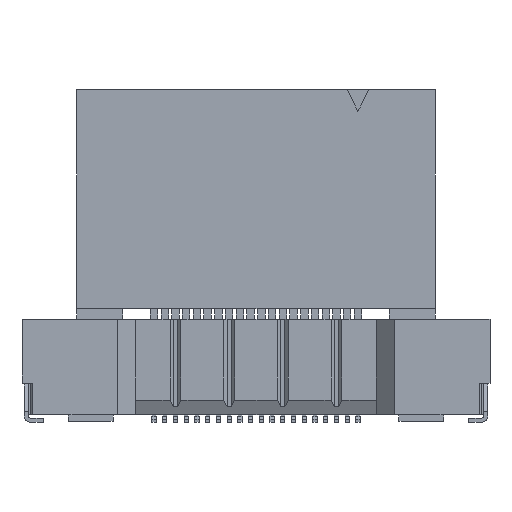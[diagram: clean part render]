
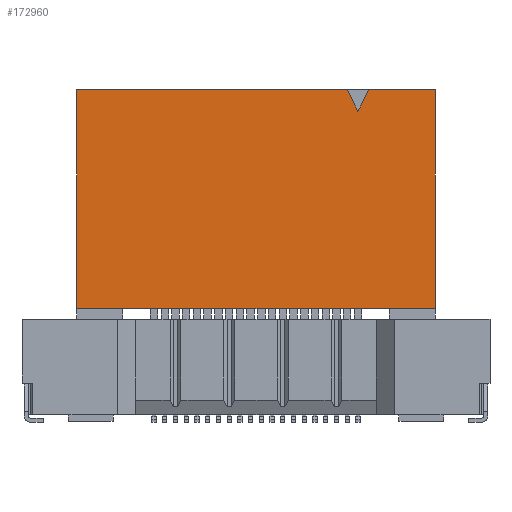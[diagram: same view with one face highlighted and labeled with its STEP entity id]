
A CAD part, front view. The second image highlights one B-rep face of the part: STEP entity #172960.
In plain terms, the highlighted planar face has unit normal (0, -1, 0).
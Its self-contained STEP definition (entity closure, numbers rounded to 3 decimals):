
#88800=CARTESIAN_POINT('',(-11.054,23.85,23.75));
#88810=VERTEX_POINT('',#88800);
#88840=CARTESIAN_POINT('',(-11.054,23.85,11.165));
#88850=DIRECTION('',(0.,0.,-1.));
#88860=VECTOR('',#88850,1.);
#88870=LINE('',#88840,#88860);
#88880=CARTESIAN_POINT('',(-11.054,23.85,13.55));
#88890=VERTEX_POINT('',#88880);
#88900=EDGE_CURVE('',#88810,#88890,#88870,.T.);
#149820=CARTESIAN_POINT('',(5.646,23.85,23.75));
#149830=VERTEX_POINT('',#149820);
#149860=CARTESIAN_POINT('',(-14.704,23.85,23.75));
#149870=DIRECTION('',(1.,0.,0.));
#149880=VECTOR('',#149870,1.);
#149890=LINE('',#149860,#149880);
#149900=CARTESIAN_POINT('',(2.546,23.85,23.75));
#149910=VERTEX_POINT('',#149900);
#149920=EDGE_CURVE('',#149910,#149830,#149890,.T.);
#150140=CARTESIAN_POINT('',(1.546,23.85,23.75));
#150150=VERTEX_POINT('',#150140);
#150180=CARTESIAN_POINT('',(-14.704,23.85,23.75));
#150190=DIRECTION('',(1.,0.,0.));
#150200=VECTOR('',#150190,1.);
#150210=LINE('',#150180,#150200);
#150220=EDGE_CURVE('',#88810,#150150,#150210,.T.);
#156360=CARTESIAN_POINT('',(-14.704,23.85,13.55));
#156370=DIRECTION('',(1.,0.,0.));
#156380=VECTOR('',#156370,1.);
#156390=LINE('',#156360,#156380);
#156400=CARTESIAN_POINT('',(5.646,23.85,13.55));
#156410=VERTEX_POINT('',#156400);
#156420=EDGE_CURVE('',#88890,#156410,#156390,.T.);
#172650=CARTESIAN_POINT('',(-14.704,23.85,13.55));
#172660=DIRECTION('',(0.,-1.,0.));
#172670=DIRECTION('',(0.,0.,1.));
#172680=AXIS2_PLACEMENT_3D('',#172650,#172660,#172670);
#172690=PLANE('',#172680);
#172700=ORIENTED_EDGE('',*,*,#156420,.T.);
#172710=ORIENTED_EDGE('',*,*,#88900,.T.);
#172720=ORIENTED_EDGE('',*,*,#150220,.F.);
#172730=CARTESIAN_POINT('',(7.838,23.85,11.165));
#172740=DIRECTION('',(-0.447,0.,0.894));
#172750=VECTOR('',#172740,1.);
#172760=LINE('',#172730,#172750);
#172770=CARTESIAN_POINT('',(2.046,23.85,22.75));
#172780=VERTEX_POINT('',#172770);
#172790=EDGE_CURVE('',#172780,#150150,#172760,.T.);
#172800=ORIENTED_EDGE('',*,*,#172790,.T.);
#172810=CARTESIAN_POINT('',(-3.747,23.85,11.165));
#172820=DIRECTION('',(-0.447,0.,-0.894));
#172830=VECTOR('',#172820,1.);
#172840=LINE('',#172810,#172830);
#172850=EDGE_CURVE('',#149910,#172780,#172840,.T.);
#172860=ORIENTED_EDGE('',*,*,#172850,.T.);
#172870=ORIENTED_EDGE('',*,*,#149920,.F.);
#172880=CARTESIAN_POINT('',(5.646,23.85,11.165));
#172890=DIRECTION('',(0.,0.,-1.));
#172900=VECTOR('',#172890,1.);
#172910=LINE('',#172880,#172900);
#172920=EDGE_CURVE('',#149830,#156410,#172910,.T.);
#172930=ORIENTED_EDGE('',*,*,#172920,.F.);
#172940=EDGE_LOOP('',(#172930,#172870,#172860,#172800,#172720,#172710,
#172700));
#172950=FACE_OUTER_BOUND('',#172940,.T.);
#172960=ADVANCED_FACE('',(#172950),#172690,.T.);
